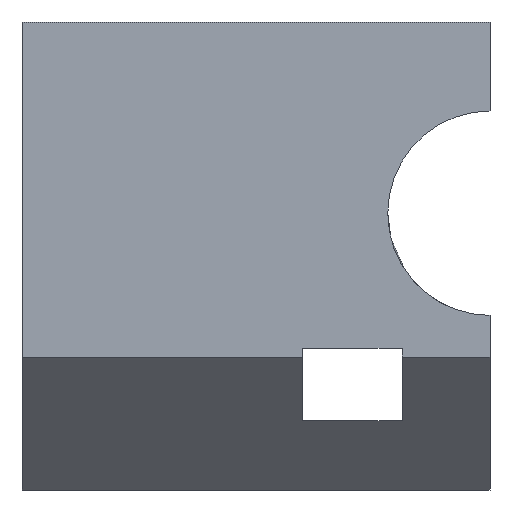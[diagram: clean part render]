
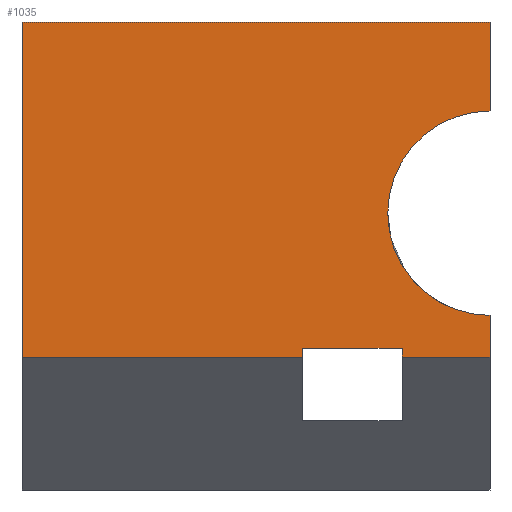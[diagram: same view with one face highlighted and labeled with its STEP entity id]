
A CAD part, left-side view. The second image highlights one B-rep face of the part: STEP entity #1035.
In plain terms, the highlighted planar face has unit normal (-1, 0, 0).
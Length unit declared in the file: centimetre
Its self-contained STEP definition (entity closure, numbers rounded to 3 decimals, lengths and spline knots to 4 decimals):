
#5 = EDGE_CURVE ( 'NONE', #648, #1136, #430, .T. ) ;
#12 = CARTESIAN_POINT ( 'NONE',  ( 0., 187.5617, 147.8925 ) ) ;
#14 = VECTOR ( 'NONE', #869, 100. ) ;
#53 = LINE ( 'NONE', #876, #588 ) ;
#57 = CARTESIAN_POINT ( 'NONE',  ( 0., 1000., 283.8288 ) ) ;
#64 = CARTESIAN_POINT ( 'NONE',  ( 0., 187.5617, 303.0247 ) ) ;
#70 = EDGE_CURVE ( 'NONE', #632, #1096, #764, .T. ) ;
#96 = VECTOR ( 'NONE', #983, 100. ) ;
#105 = VERTEX_POINT ( 'NONE', #1009 ) ;
#174 = LINE ( 'NONE', #57, #14 ) ;
#187 = ORIENTED_EDGE ( 'NONE', *, *, #5, .F. ) ;
#196 = VECTOR ( 'NONE', #203, 100. ) ;
#203 = DIRECTION ( 'NONE',  ( 0., 0., -1. ) ) ;
#212 = CARTESIAN_POINT ( 'NONE',  ( 0., 0., 1000. ) ) ;
#228 = LINE ( 'NONE', #312, #678 ) ;
#232 = DIRECTION ( 'NONE',  ( 0., 0., -1. ) ) ;
#243 = ORIENTED_EDGE ( 'NONE', *, *, #890, .F. ) ;
#246 = CARTESIAN_POINT ( 'NONE',  ( 0., 0., 809.9275 ) ) ;
#247 = LINE ( 'NONE', #64, #1052 ) ;
#249 = EDGE_CURVE ( 'NONE', #1148, #1054, #247, .T. ) ;
#270 = LINE ( 'NONE', #12, #96 ) ;
#278 = EDGE_CURVE ( 'NONE', #105, #501, #53, .T. ) ;
#287 = EDGE_CURVE ( 'NONE', #1054, #501, #871, .T. ) ;
#299 = ORIENTED_EDGE ( 'NONE', *, *, #287, .F. ) ;
#312 = CARTESIAN_POINT ( 'NONE',  ( 0., 1000., 1000. ) ) ;
#320 = ORIENTED_EDGE ( 'NONE', *, *, #278, .T. ) ;
#334 = EDGE_CURVE ( 'NONE', #812, #1148, #270, .T. ) ;
#341 = DIRECTION ( 'NONE',  ( 0., 0., -1. ) ) ;
#351 = ORIENTED_EDGE ( 'NONE', *, *, #831, .T. ) ;
#381 = ORIENTED_EDGE ( 'NONE', *, *, #334, .F. ) ;
#384 = CARTESIAN_POINT ( 'NONE',  ( 0., 1000., 1000. ) ) ;
#406 = EDGE_CURVE ( 'NONE', #821, #648, #640, .T. ) ;
#430 = LINE ( 'NONE', #877, #931 ) ;
#433 = DIRECTION ( 'NONE',  ( 0., 1., 0. ) ) ;
#447 = CARTESIAN_POINT ( 'NONE',  ( 0., 0., 283.8288 ) ) ;
#501 = VERTEX_POINT ( 'NONE', #851 ) ;
#546 = AXIS2_PLACEMENT_3D ( 'NONE', #384, #658, #746 ) ;
#565 = CIRCLE ( 'NONE', #689, 218.4514 ) ;
#588 = VECTOR ( 'NONE', #1053, 100. ) ;
#604 = EDGE_CURVE ( 'NONE', #821, #105, #228, .T. ) ;
#627 = CARTESIAN_POINT ( 'NONE',  ( 0., 401.0945, 303.0247 ) ) ;
#632 = VERTEX_POINT ( 'NONE', #681 ) ;
#633 = DIRECTION ( 'NONE',  ( 0., -1., 0. ) ) ;
#640 = LINE ( 'NONE', #1170, #827 ) ;
#641 = DIRECTION ( 'NONE',  ( -1., 0., 0. ) ) ;
#648 = VERTEX_POINT ( 'NONE', #212 ) ;
#658 = DIRECTION ( 'NONE',  ( 1., 0., 0. ) ) ;
#678 = VECTOR ( 'NONE', #232, 100. ) ;
#681 = CARTESIAN_POINT ( 'NONE',  ( 0., 0., 373.0247 ) ) ;
#689 = AXIS2_PLACEMENT_3D ( 'NONE', #802, #641, #719 ) ;
#703 = CARTESIAN_POINT ( 'NONE',  ( 0., 187.5617, 303.0247 ) ) ;
#709 = CARTESIAN_POINT ( 'NONE',  ( 0., 187.5617, 283.8288 ) ) ;
#719 = DIRECTION ( 'NONE',  ( 0., 0., 1. ) ) ;
#746 = DIRECTION ( 'NONE',  ( 0., 0., -1. ) ) ;
#755 = ORIENTED_EDGE ( 'NONE', *, *, #70, .F. ) ;
#759 = PLANE ( 'NONE',  #546 ) ;
#764 = LINE ( 'NONE', #825, #196 ) ;
#788 = DIRECTION ( 'NONE',  ( 0., 0., -1. ) ) ;
#802 = CARTESIAN_POINT ( 'NONE',  ( 0., 0., 591.4761 ) ) ;
#812 = VERTEX_POINT ( 'NONE', #709 ) ;
#817 = ORIENTED_EDGE ( 'NONE', *, *, #406, .F. ) ;
#821 = VERTEX_POINT ( 'NONE', #1049 ) ;
#825 = CARTESIAN_POINT ( 'NONE',  ( 0., 0., 1000. ) ) ;
#827 = VECTOR ( 'NONE', #633, 100. ) ;
#831 = EDGE_CURVE ( 'NONE', #812, #1096, #174, .T. ) ;
#833 = FACE_OUTER_BOUND ( 'NONE', #1024, .T. ) ;
#848 = VECTOR ( 'NONE', #788, 100. ) ;
#851 = CARTESIAN_POINT ( 'NONE',  ( 0., 401.0945, 283.8288 ) ) ;
#869 = DIRECTION ( 'NONE',  ( 0., -1., 0. ) ) ;
#871 = LINE ( 'NONE', #1146, #848 ) ;
#876 = CARTESIAN_POINT ( 'NONE',  ( 0., 1000., 283.8288 ) ) ;
#877 = CARTESIAN_POINT ( 'NONE',  ( 0., 0., 1000. ) ) ;
#890 = EDGE_CURVE ( 'NONE', #1136, #632, #565, .T. ) ;
#931 = VECTOR ( 'NONE', #341, 100. ) ;
#983 = DIRECTION ( 'NONE',  ( 0., 0., 1. ) ) ;
#1009 = CARTESIAN_POINT ( 'NONE',  ( 0., 1000., 283.8288 ) ) ;
#1024 = EDGE_LOOP ( 'NONE', ( #755, #243, #187, #817, #1038, #320, #299, #1103, #381, #351 ) ) ;
#1035 = ADVANCED_FACE ( 'NONE', ( #833 ), #759, .F. ) ;
#1038 = ORIENTED_EDGE ( 'NONE', *, *, #604, .T. ) ;
#1049 = CARTESIAN_POINT ( 'NONE',  ( 0., 1000., 1000. ) ) ;
#1052 = VECTOR ( 'NONE', #433, 100. ) ;
#1053 = DIRECTION ( 'NONE',  ( 0., -1., 0. ) ) ;
#1054 = VERTEX_POINT ( 'NONE', #627 ) ;
#1096 = VERTEX_POINT ( 'NONE', #447 ) ;
#1103 = ORIENTED_EDGE ( 'NONE', *, *, #249, .F. ) ;
#1136 = VERTEX_POINT ( 'NONE', #246 ) ;
#1146 = CARTESIAN_POINT ( 'NONE',  ( 0., 401.0945, 147.8925 ) ) ;
#1148 = VERTEX_POINT ( 'NONE', #703 ) ;
#1170 = CARTESIAN_POINT ( 'NONE',  ( 0., 1000., 1000. ) ) ;
